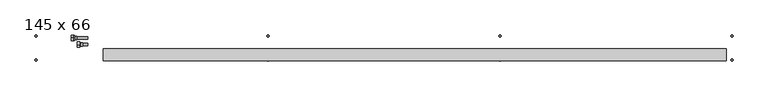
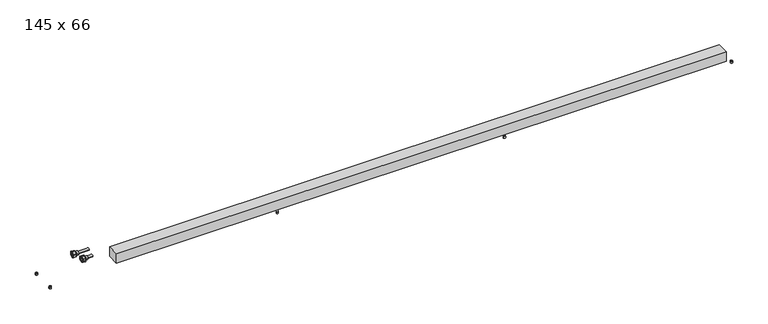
"""IFC4 building model written with IfcOpenShell, lengths in millimetres: proxy geometry, Mohlenhof_Внутрипольный конвектор_QSKM : 145 x 66."""

from ifc_helpers import new_model, si_unit, point, frame, frame_2d, origin, place, context, project, spatial, polyline, circle_curve, trimmed, segment, composite_curve, outline, extrude, source, transform, mapped, element, save
from ifc_brep_helpers import plane_surface, cylinder_surface, revolved_surface, advanced_brep


def proxy_145_x_66_553b1ab1(model_context):
    return source(origin(), model_context, "Body", "SolidModel", [
        extrude(outline(composite_curve([segment(trimmed(circle_curve(frame_2d((-491.6666667, -223.5)), 4.5), [point((-496.1666667, -223.5))], [point((-487.1666667, -223.5))], False, "CARTESIAN"), True, "CONTINUOUS"), segment(trimmed(circle_curve(frame_2d((-491.6666667, -223.5)), 4.5), [point((-487.1666667, -223.5))], [point((-496.1666667, -223.5))], False, "CARTESIAN"), True, "CONTINUOUS")], self_intersect=False)), frame((0.0, 0.0, -79.0), z_axis=(0.0, 0.0, 1.0), x_axis=(1.0, 0.0, 0.0)), (0.0, 0.0, 1.0), 7.0),
        extrude(outline(composite_curve([segment(trimmed(circle_curve(frame_2d((-491.6666667, -223.5)), 4.0), [point((-495.6666667, -223.5))], [point((-487.6666667, -223.5))], False, "CARTESIAN"), True, "CONTINUOUS"), segment(trimmed(circle_curve(frame_2d((-491.6666667, -223.5)), 4.0), [point((-487.6666667, -223.5))], [point((-495.6666667, -223.5))], False, "CARTESIAN"), True, "CONTINUOUS")], self_intersect=False)), frame((0.0, 0.0, -72.0), z_axis=(0.0, 0.0, 1.0), x_axis=(1.0, 0.0, 0.0)), (0.0, 0.0, 1.0), 1.5),
        extrude(outline(composite_curve([segment(trimmed(circle_curve(frame_2d((491.6666667, -223.5)), 4.5), [point((487.1666667, -223.5))], [point((496.1666667, -223.5))], False, "CARTESIAN"), True, "CONTINUOUS"), segment(trimmed(circle_curve(frame_2d((491.6666667, -223.5)), 4.5), [point((496.1666667, -223.5))], [point((487.1666667, -223.5))], False, "CARTESIAN"), True, "CONTINUOUS")], self_intersect=False)), frame((0.0, 0.0, -79.0), z_axis=(0.0, 0.0, 1.0), x_axis=(1.0, 0.0, 0.0)), (0.0, 0.0, 1.0), 7.0),
        extrude(outline(composite_curve([segment(trimmed(circle_curve(frame_2d((491.6666667, -223.5)), 4.0), [point((487.6666667, -223.5))], [point((495.6666667, -223.5))], False, "CARTESIAN"), True, "CONTINUOUS"), segment(trimmed(circle_curve(frame_2d((491.6666667, -223.5)), 4.0), [point((495.6666667, -223.5))], [point((487.6666667, -223.5))], False, "CARTESIAN"), True, "CONTINUOUS")], self_intersect=False)), frame((0.0, 0.0, -72.0), z_axis=(0.0, 0.0, 1.0), x_axis=(1.0, 0.0, 0.0)), (0.0, 0.0, 1.0), 1.5),
        extrude(outline(composite_curve([segment(trimmed(circle_curve(frame_2d((-491.6666667, -121.5)), 4.5), [point((-496.1666667, -121.5))], [point((-487.1666667, -121.5))], False, "CARTESIAN"), True, "CONTINUOUS"), segment(trimmed(circle_curve(frame_2d((-491.6666667, -121.5)), 4.5), [point((-487.1666667, -121.5))], [point((-496.1666667, -121.5))], False, "CARTESIAN"), True, "CONTINUOUS")], self_intersect=False)), frame((0.0, 0.0, -79.0), z_axis=(0.0, 0.0, 1.0), x_axis=(1.0, 0.0, 0.0)), (0.0, 0.0, 1.0), 7.0),
        extrude(outline(composite_curve([segment(trimmed(circle_curve(frame_2d((-491.6666667, -121.5)), 4.0), [point((-495.6666667, -121.5))], [point((-487.6666667, -121.5))], False, "CARTESIAN"), True, "CONTINUOUS"), segment(trimmed(circle_curve(frame_2d((-491.6666667, -121.5)), 4.0), [point((-487.6666667, -121.5))], [point((-495.6666667, -121.5))], False, "CARTESIAN"), True, "CONTINUOUS")], self_intersect=False)), frame((0.0, 0.0, -72.0), z_axis=(0.0, 0.0, 1.0), x_axis=(1.0, 0.0, 0.0)), (0.0, 0.0, 1.0), 1.5),
        extrude(outline(composite_curve([segment(trimmed(circle_curve(frame_2d((491.6666667, -121.5)), 4.5), [point((487.1666667, -121.5))], [point((496.1666667, -121.5))], False, "CARTESIAN"), True, "CONTINUOUS"), segment(trimmed(circle_curve(frame_2d((491.6666667, -121.5)), 4.5), [point((496.1666667, -121.5))], [point((487.1666667, -121.5))], False, "CARTESIAN"), True, "CONTINUOUS")], self_intersect=False)), frame((0.0, 0.0, -79.0), z_axis=(0.0, 0.0, 1.0), x_axis=(1.0, 0.0, 0.0)), (0.0, 0.0, 1.0), 7.0),
        extrude(outline(composite_curve([segment(trimmed(circle_curve(frame_2d((491.6666667, -121.5)), 4.0), [point((487.6666667, -121.5))], [point((495.6666667, -121.5))], False, "CARTESIAN"), True, "CONTINUOUS"), segment(trimmed(circle_curve(frame_2d((491.6666667, -121.5)), 4.0), [point((495.6666667, -121.5))], [point((487.6666667, -121.5))], False, "CARTESIAN"), True, "CONTINUOUS")], self_intersect=False)), frame((0.0, 0.0, -72.0), z_axis=(0.0, 0.0, 1.0), x_axis=(1.0, 0.0, 0.0)), (0.0, 0.0, 1.0), 1.5),
        advanced_brep(
        [(-1290.0, -158.0, -47.5), (-1290.0, -146.0, -47.5), (-1290.0, -170.0, -47.5), (-1277.5, -165.5, -47.5), (-1277.5, -150.5, -47.5), (-1277.5, -158.0, -47.5), (-1285.0, -165.5, -47.5), (-1285.0, -150.5, -47.5)],
        [
            (0, 1),
            (1, 2, circle_curve(frame((-1290.0, -158.0, -47.5), z_axis=(-1.0, 0.0, 0.0), x_axis=(0.0, 1.0, 0.0)), 12.0)),
            (2, 0),
            (2, 1, circle_curve(frame((-1290.0, -158.0, -47.5), z_axis=(-1.0, 0.0, 0.0), x_axis=(0.0, 1.0, 0.0)), 12.0)),
            (3, 4, circle_curve(frame((-1277.5, -158.0, -47.5), z_axis=(1.0, 0.0, 0.0), x_axis=(0.0, 1.0, 0.0)), 7.5)),
            (4, 5),
            (5, 3),
            (4, 3, circle_curve(frame((-1277.5, -158.0, -47.5), z_axis=(1.0, 0.0, 0.0), x_axis=(0.0, 1.0, 0.0)), 7.5)),
            (6, 7, circle_curve(frame((-1285.0, -158.0, -47.5), z_axis=(1.0, 0.0, 0.0), x_axis=(0.0, 1.0, 0.0)), 7.5)),
            (7, 4),
            (3, 6),
            (7, 6, circle_curve(frame((-1285.0, -158.0, -47.5), z_axis=(1.0, 0.0, 0.0), x_axis=(0.0, 1.0, 0.0)), 7.5)),
            (1, 7),
            (6, 2),
        ],
        [
            plane_surface(frame((-1290.0, -158.0, -47.5), z_axis=(-1.0, 0.0, 0.0), x_axis=(0.0, 1.0, 0.0))),
            plane_surface(frame((-1277.5, -158.0, -47.5), z_axis=(1.0, 0.0, 0.0), x_axis=(0.0, 1.0, 0.0))),
            cylinder_surface(frame((-1290.0, -158.0, -47.5), z_axis=(-1.0, 0.0, 0.0), x_axis=(0.0, 1.0, 0.0)), 7.5),
            revolved_surface(polyline([(-1285.0, -150.5, -47.5), (-1290.0, -146.0, -47.5)]), (-1290.0, -158.0, -47.5), (-1.0, 0.0, 0.0)),
        ],
        [
            (0, [[1, 2, 3]]),
            (0, [[-3, 4, -1]]),
            (1, [[5, 6, 7]]),
            (1, [[8, -7, -6]]),
            (2, [[9, 10, -5, 11]]),
            (2, [[12, -11, -8, -10]]),
            (3, [[-2, 13, -9, 14]]),
            (3, [[-4, -14, -12, -13]]),
        ],
    ),
        extrude(outline(polyline([(-158.0, -33.6435935), (-146.0, -40.5717968), (-146.0, -54.4282032), (-158.0, -61.3564065), (-170.0, -54.4282032), (-170.0, -40.5717968), (-158.0, -33.6435935)]), holes=[composite_curve([segment(trimmed(circle_curve(frame_2d((-158.0, -47.5)), 8.5), [point((-149.5, -47.5))], [point((-166.5, -47.5))], True, "CARTESIAN"), True, "CONTINUOUS"), segment(trimmed(circle_curve(frame_2d((-158.0, -47.5)), 8.5), [point((-166.5, -47.5))], [point((-149.5, -47.5))], True, "CARTESIAN"), True, "CONTINUOUS")], self_intersect=False)]), frame((-1301.0, 0.0, 0.0), z_axis=(1.0, 0.0, 0.0), x_axis=(0.0, 1.0, 0.0)), (0.0, 0.0, 1.0), 11.0),
        advanced_brep(
        [(-1314.0, -130.0, -34.5), (-1314.0, -118.0, -34.5), (-1314.0, -142.0, -34.5), (-1301.5, -137.5, -34.5), (-1301.5, -122.5, -34.5), (-1301.5, -130.0, -34.5), (-1309.0, -137.5, -34.5), (-1309.0, -122.5, -34.5)],
        [
            (0, 1),
            (1, 2, circle_curve(frame((-1314.0, -130.0, -34.5), z_axis=(-1.0, 0.0, 0.0), x_axis=(0.0, 1.0, 0.0)), 12.0)),
            (2, 0),
            (2, 1, circle_curve(frame((-1314.0, -130.0, -34.5), z_axis=(-1.0, 0.0, 0.0), x_axis=(0.0, 1.0, 0.0)), 12.0)),
            (3, 4, circle_curve(frame((-1301.5, -130.0, -34.5), z_axis=(1.0, 0.0, 0.0), x_axis=(0.0, 1.0, 0.0)), 7.5)),
            (4, 5),
            (5, 3),
            (4, 3, circle_curve(frame((-1301.5, -130.0, -34.5), z_axis=(1.0, 0.0, 0.0), x_axis=(0.0, 1.0, 0.0)), 7.5)),
            (6, 7, circle_curve(frame((-1309.0, -130.0, -34.5), z_axis=(1.0, 0.0, 0.0), x_axis=(0.0, 1.0, 0.0)), 7.5)),
            (7, 4),
            (3, 6),
            (7, 6, circle_curve(frame((-1309.0, -130.0, -34.5), z_axis=(1.0, 0.0, 0.0), x_axis=(0.0, 1.0, 0.0)), 7.5)),
            (1, 7),
            (6, 2),
        ],
        [
            plane_surface(frame((-1314.0, -130.0, -34.5), z_axis=(-1.0, 0.0, 0.0), x_axis=(0.0, 1.0, 0.0))),
            plane_surface(frame((-1301.5, -130.0, -34.5), z_axis=(1.0, 0.0, 0.0), x_axis=(0.0, 1.0, 0.0))),
            cylinder_surface(frame((-1314.0, -130.0, -34.5), z_axis=(-1.0, 0.0, 0.0), x_axis=(0.0, 1.0, 0.0)), 7.5),
            revolved_surface(polyline([(-1309.0, -122.5, -34.5), (-1314.0, -118.0, -34.5)]), (-1314.0, -130.0, -34.5), (-1.0, 0.0, 0.0)),
        ],
        [
            (0, [[1, 2, 3]]),
            (0, [[-3, 4, -1]]),
            (1, [[5, 6, 7]]),
            (1, [[8, -7, -6]]),
            (2, [[9, 10, -5, 11]]),
            (2, [[12, -11, -8, -10]]),
            (3, [[-2, 13, -9, 14]]),
            (3, [[-4, -14, -12, -13]]),
        ],
    ),
        extrude(outline(polyline([(-130.0, -20.6435935), (-118.0, -27.5717968), (-118.0, -41.4282032), (-130.0, -48.3564065), (-142.0, -41.4282032), (-142.0, -27.5717968), (-130.0, -20.6435935)]), holes=[composite_curve([segment(trimmed(circle_curve(frame_2d((-130.0, -34.5)), 8.5), [point((-121.5, -34.5))], [point((-138.5, -34.5))], True, "CARTESIAN"), True, "CONTINUOUS"), segment(trimmed(circle_curve(frame_2d((-130.0, -34.5)), 8.5), [point((-138.5, -34.5))], [point((-121.5, -34.5))], True, "CARTESIAN"), True, "CONTINUOUS")], self_intersect=False)]), frame((-1325.0, 0.0, 0.0), z_axis=(1.0, 0.0, 0.0), x_axis=(0.0, 1.0, 0.0)), (0.0, 0.0, 1.0), 11.0),
        extrude(outline(composite_curve([segment(trimmed(circle_curve(frame_2d((-1475.0, -223.5)), 4.5), [point((-1479.5, -223.5))], [point((-1470.5, -223.5))], False, "CARTESIAN"), True, "CONTINUOUS"), segment(trimmed(circle_curve(frame_2d((-1475.0, -223.5)), 4.5), [point((-1470.5, -223.5))], [point((-1479.5, -223.5))], False, "CARTESIAN"), True, "CONTINUOUS")], self_intersect=False)), frame((0.0, 0.0, -79.0), z_axis=(0.0, 0.0, 1.0), x_axis=(1.0, 0.0, 0.0)), (0.0, 0.0, 1.0), 7.0),
        extrude(outline(composite_curve([segment(trimmed(circle_curve(frame_2d((-1475.0, -223.5)), 4.0), [point((-1479.0, -223.5))], [point((-1471.0, -223.5))], False, "CARTESIAN"), True, "CONTINUOUS"), segment(trimmed(circle_curve(frame_2d((-1475.0, -223.5)), 4.0), [point((-1471.0, -223.5))], [point((-1479.0, -223.5))], False, "CARTESIAN"), True, "CONTINUOUS")], self_intersect=False)), frame((0.0, 0.0, -72.0), z_axis=(0.0, 0.0, 1.0), x_axis=(1.0, 0.0, 0.0)), (0.0, 0.0, 1.0), 1.5),
        extrude(outline(composite_curve([segment(trimmed(circle_curve(frame_2d((-1475.0, -121.5)), 4.5), [point((-1479.5, -121.5))], [point((-1470.5, -121.5))], False, "CARTESIAN"), True, "CONTINUOUS"), segment(trimmed(circle_curve(frame_2d((-1475.0, -121.5)), 4.5), [point((-1470.5, -121.5))], [point((-1479.5, -121.5))], False, "CARTESIAN"), True, "CONTINUOUS")], self_intersect=False)), frame((0.0, 0.0, -79.0), z_axis=(0.0, 0.0, 1.0), x_axis=(1.0, 0.0, 0.0)), (0.0, 0.0, 1.0), 7.0),
        extrude(outline(composite_curve([segment(trimmed(circle_curve(frame_2d((-1475.0, -121.5)), 4.0), [point((-1479.0, -121.5))], [point((-1471.0, -121.5))], False, "CARTESIAN"), True, "CONTINUOUS"), segment(trimmed(circle_curve(frame_2d((-1475.0, -121.5)), 4.0), [point((-1471.0, -121.5))], [point((-1479.0, -121.5))], False, "CARTESIAN"), True, "CONTINUOUS")], self_intersect=False)), frame((0.0, 0.0, -72.0), z_axis=(0.0, 0.0, 1.0), x_axis=(1.0, 0.0, 0.0)), (0.0, 0.0, 1.0), 1.5),
        extrude(outline(composite_curve([segment(trimmed(circle_curve(frame_2d((1475.0, -223.5)), 4.5), [point((1470.5, -223.5))], [point((1479.5, -223.5))], False, "CARTESIAN"), True, "CONTINUOUS"), segment(trimmed(circle_curve(frame_2d((1475.0, -223.5)), 4.5), [point((1479.5, -223.5))], [point((1470.5, -223.5))], False, "CARTESIAN"), True, "CONTINUOUS")], self_intersect=False)), frame((0.0, 0.0, -79.0), z_axis=(0.0, 0.0, 1.0), x_axis=(1.0, 0.0, 0.0)), (0.0, 0.0, 1.0), 7.0),
        extrude(outline(composite_curve([segment(trimmed(circle_curve(frame_2d((1475.0, -223.5)), 4.0), [point((1471.0, -223.5))], [point((1479.0, -223.5))], False, "CARTESIAN"), True, "CONTINUOUS"), segment(trimmed(circle_curve(frame_2d((1475.0, -223.5)), 4.0), [point((1479.0, -223.5))], [point((1471.0, -223.5))], False, "CARTESIAN"), True, "CONTINUOUS")], self_intersect=False)), frame((0.0, 0.0, -72.0), z_axis=(0.0, 0.0, 1.0), x_axis=(1.0, 0.0, 0.0)), (0.0, 0.0, 1.0), 1.5),
        extrude(outline(composite_curve([segment(trimmed(circle_curve(frame_2d((1475.0, -121.5)), 4.5), [point((1470.5, -121.5))], [point((1479.5, -121.5))], False, "CARTESIAN"), True, "CONTINUOUS"), segment(trimmed(circle_curve(frame_2d((1475.0, -121.5)), 4.5), [point((1479.5, -121.5))], [point((1470.5, -121.5))], False, "CARTESIAN"), True, "CONTINUOUS")], self_intersect=False)), frame((0.0, 0.0, -79.0), z_axis=(0.0, 0.0, 1.0), x_axis=(1.0, 0.0, 0.0)), (0.0, 0.0, 1.0), 7.0),
        extrude(outline(composite_curve([segment(trimmed(circle_curve(frame_2d((1475.0, -121.5)), 4.0), [point((1471.0, -121.5))], [point((1479.0, -121.5))], False, "CARTESIAN"), True, "CONTINUOUS"), segment(trimmed(circle_curve(frame_2d((1475.0, -121.5)), 4.0), [point((1479.0, -121.5))], [point((1471.0, -121.5))], False, "CARTESIAN"), True, "CONTINUOUS")], self_intersect=False)), frame((0.0, 0.0, -72.0), z_axis=(0.0, 0.0, 1.0), x_axis=(1.0, 0.0, 0.0)), (0.0, 0.0, 1.0), 1.5),
        extrude(outline(polyline([(1450.0, -175.87), (1450.0, -227.18), (-1190.0, -227.18), (-1190.0, -175.87), (1450.0, -175.87)])), frame((0.0, 0.0, -62.5), z_axis=(0.0, 0.0, 1.0), x_axis=(1.0, 0.0, 0.0)), (0.0, 0.0, 1.0), 43.62),
        extrude(outline(composite_curve([segment(trimmed(circle_curve(frame_2d((-158.0, -47.5)), 5.0), [point((-163.0, -47.5))], [point((-153.0, -47.5))], False, "CARTESIAN"), True, "CONTINUOUS"), segment(trimmed(circle_curve(frame_2d((-158.0, -47.5)), 5.0), [point((-153.0, -47.5))], [point((-163.0, -47.5))], False, "CARTESIAN"), True, "CONTINUOUS")], self_intersect=False)), frame((-1301.0, 0.0, 0.0), z_axis=(1.0, 0.0, 0.0), x_axis=(0.0, 1.0, 0.0)), (0.0, 0.0, 1.0), 46.0),
        extrude(outline(composite_curve([segment(trimmed(circle_curve(frame_2d((-130.0, -34.5)), 5.0), [point((-135.0, -34.5))], [point((-125.0, -34.5))], False, "CARTESIAN"), True, "CONTINUOUS"), segment(trimmed(circle_curve(frame_2d((-130.0, -34.5)), 5.0), [point((-125.0, -34.5))], [point((-135.0, -34.5))], False, "CARTESIAN"), True, "CONTINUOUS")], self_intersect=False)), frame((-1325.0, 0.0, 0.0), z_axis=(1.0, 0.0, 0.0), x_axis=(0.0, 1.0, 0.0)), (0.0, 0.0, 1.0), 70.0),
    ])


if __name__ == "__main__":
    model = new_model("IFC4")
    model_context = context("Model", 3, world=origin())
    ifc_project = project(units=[si_unit("LENGTHUNIT", "METRE", prefix="MILLI")], contexts=[model_context])
    site = spatial("IfcSite", under=ifc_project)
    building = spatial("IfcBuilding", under=site)
    placement = place(None, origin())
    proxy_145_x_66_shape = proxy_145_x_66_553b1ab1(model_context)
    element("IfcBuildingElementProxy", 1, Name="Mohlenhof_Внутрипольный конвектор_QSKM : 145 x 66", ObjectType="Mohlenhof_Внутрипольный конвектор_QSKM : 145 x 66", at=placement, inside=building, context=model_context, shape_type="MappedRepresentation", body=[
        mapped(proxy_145_x_66_shape, transform((0.0, 0.0, 0.0), x_axis=(1.0, 0.0, 0.0), y_axis=(0.0, 1.0, 0.0), z_axis=(0.0, 0.0, 1.0))),
    ])
    save(model, "model.ifc")
